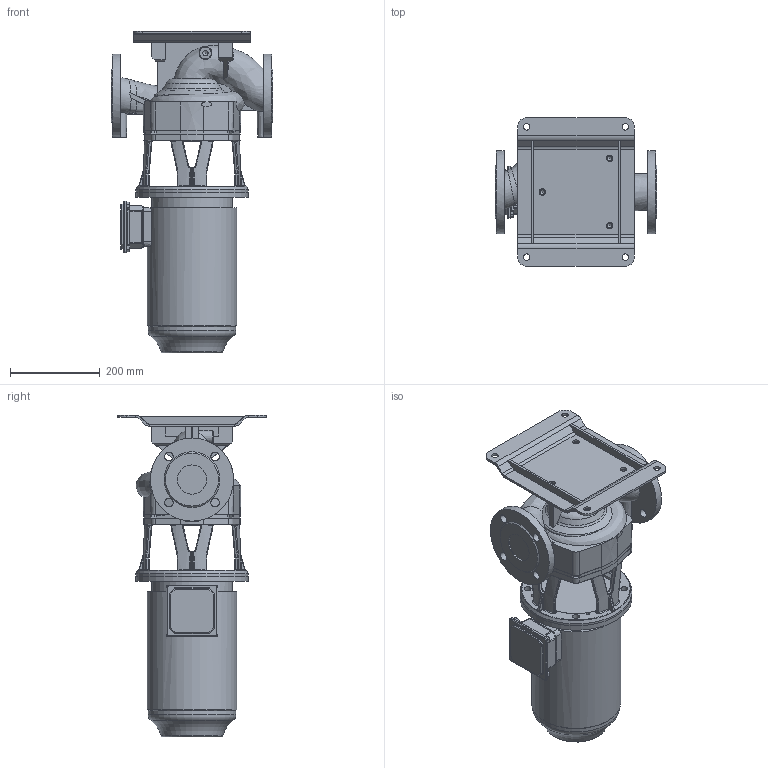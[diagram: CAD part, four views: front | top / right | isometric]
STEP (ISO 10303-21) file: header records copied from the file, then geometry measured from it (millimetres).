
FILE_DESCRIPTION (( 'STEP AP203' ), '1' );
FILE_NAME ('KI65-145_2_3kW.STEP', '2024-07-26T07:49:05', ( '' ), ( '' ), 'SwSTEP 2.0', 'SolidWorks 2023', '' );
FILE_SCHEMA (( 'CONFIG_CONTROL_DESIGN' ));
Length unit declared in the file: millimetre
Products named in the file (11): 230404; 230496; KI65-145_2_3kW; HMA4_100L_2-4_B5_solid; 230034; 230405; 230033; 230497; 220495; 220494; 230031
Assembly tree (11 placements, depth 3):
  KI65-145_2_3kW
    230405
      230404
    230497
      230496
    220495
      220494
    230034
      230031
      230033  x2
    HMA4_100L_2-4_B5_solid
Bounding box: 360 x 330.18 x 716.4 mm (x, y, z)
Volume: 19931224.6 mm3; surface area: 1212021.5 mm2
Topology: 7 solids, 7 shells, 1196 faces, 3112 edges, 1920 vertices
Faces by surface type: plane 393, cylinder 319, bspline 319, torus 92, cone 59, sphere 14
Full cylindrical faces by diameter (mm): 5 x4, 6 x3, 6.8 x4, 7 x8, 10.2 x7, 11.8 x4, 14 x4, 14.5 x11, 15 x4, 19 x8, 65 x2, 147 x1, 151 x1, 180 x2, 189 x1, 195 x1, 199 x1, 250 x2
Entity records: 80017 total; most frequent: CARTESIAN_POINT 53322, ORIENTED_EDGE 5794, DIRECTION 4472, EDGE_CURVE 2897, VERTEX_POINT 1845, AXIS2_PLACEMENT_3D 1698, EDGE_LOOP 1408, FACE_OUTER_BOUND 1260
